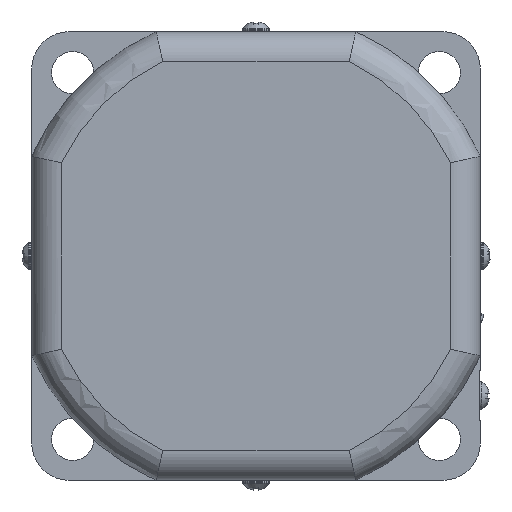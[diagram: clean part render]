
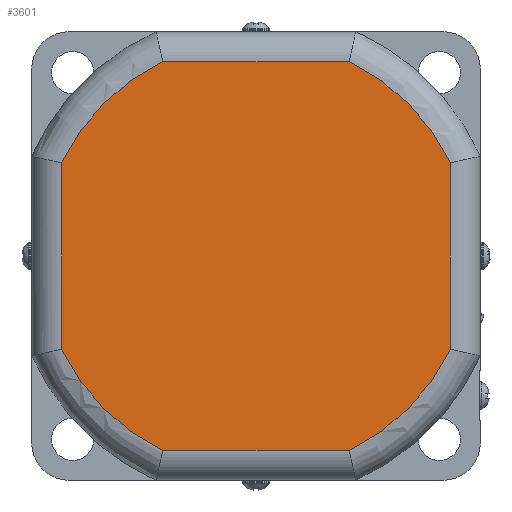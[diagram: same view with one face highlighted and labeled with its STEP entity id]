
A CAD part, left-side view. The second image highlights one B-rep face of the part: STEP entity #3601.
In plain terms, the highlighted planar face has unit normal (-1, 0, 0) as drawn and (0, 0, -1) by its records, which use the part's own axes.
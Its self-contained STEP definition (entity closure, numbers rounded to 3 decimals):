
#387=LINE('',#6355,#667);
#390=LINE('',#6375,#670);
#391=LINE('',#6428,#671);
#392=LINE('',#6445,#672);
#667=VECTOR('',#4804,37.393);
#670=VECTOR('',#4809,37.393);
#671=VECTOR('',#4824,37.393);
#672=VECTOR('',#4827,37.393);
#955=FACE_OUTER_BOUND('',#1192,.T.);
#1192=EDGE_LOOP('',(#2971,#2972,#2973,#2974,#2975,#2976,#2977,#2978));
#1362=CIRCLE('',#4013,43.25);
#1363=CIRCLE('',#4017,43.25);
#1366=CIRCLE('',#4021,43.25);
#1367=CIRCLE('',#4025,43.25);
#1639=VERTEX_POINT('',#6305);
#1641=VERTEX_POINT('',#6322);
#1643=VERTEX_POINT('',#6340);
#1645=VERTEX_POINT('',#6359);
#1646=VERTEX_POINT('',#6377);
#1647=VERTEX_POINT('',#6395);
#1648=VERTEX_POINT('',#6413);
#1649=VERTEX_POINT('',#6430);
#2094=EDGE_CURVE('',#1641,#1639,#1362,.T.);
#2096=EDGE_CURVE('',#1643,#1641,#387,.T.);
#2100=EDGE_CURVE('',#1639,#1645,#390,.T.);
#2102=EDGE_CURVE('',#1646,#1643,#1363,.T.);
#2106=EDGE_CURVE('',#1645,#1647,#1366,.T.);
#2108=EDGE_CURVE('',#1648,#1646,#391,.T.);
#2110=EDGE_CURVE('',#1647,#1649,#392,.T.);
#2111=EDGE_CURVE('',#1649,#1648,#1367,.T.);
#2971=ORIENTED_EDGE('',*,*,#2110,.F.);
#2972=ORIENTED_EDGE('',*,*,#2106,.F.);
#2973=ORIENTED_EDGE('',*,*,#2100,.F.);
#2974=ORIENTED_EDGE('',*,*,#2094,.F.);
#2975=ORIENTED_EDGE('',*,*,#2096,.F.);
#2976=ORIENTED_EDGE('',*,*,#2102,.F.);
#2977=ORIENTED_EDGE('',*,*,#2108,.F.);
#2978=ORIENTED_EDGE('',*,*,#2111,.F.);
#3411=PLANE('',#4027);
#3601=ADVANCED_FACE('',(#955),#3411,.F.);
#4013=AXIS2_PLACEMENT_3D('',#6337,#4800,#4801);
#4017=AXIS2_PLACEMENT_3D('',#6392,#4812,#4813);
#4021=AXIS2_PLACEMENT_3D('',#6411,#4820,#4821);
#4025=AXIS2_PLACEMENT_3D('',#6447,#4830,#4831);
#4027=AXIS2_PLACEMENT_3D('',#6449,#4834,#4835);
#4800=DIRECTION('center_axis',(0.,0.,1.));
#4801=DIRECTION('ref_axis',(0.707,-0.707,0.));
#4804=DIRECTION('',(1.,0.,0.));
#4809=DIRECTION('',(0.,1.,0.));
#4812=DIRECTION('center_axis',(0.,0.,1.));
#4813=DIRECTION('ref_axis',(-0.707,-0.707,0.));
#4820=DIRECTION('center_axis',(0.,0.,1.));
#4821=DIRECTION('ref_axis',(0.707,0.707,0.));
#4824=DIRECTION('',(0.,-1.,0.));
#4827=DIRECTION('',(-1.,0.,0.));
#4830=DIRECTION('center_axis',(0.,0.,1.));
#4831=DIRECTION('ref_axis',(-0.707,0.707,0.));
#4834=DIRECTION('center_axis',(0.,0.,1.));
#4835=DIRECTION('ref_axis',(1.,0.,0.));
#6305=CARTESIAN_POINT('',(39.,-18.697,0.));
#6322=CARTESIAN_POINT('',(18.697,-39.,0.));
#6337=CARTESIAN_POINT('Origin',(0.,0.,0.));
#6340=CARTESIAN_POINT('',(-18.697,-39.,0.));
#6355=CARTESIAN_POINT('',(-18.697,-39.,0.));
#6359=CARTESIAN_POINT('',(39.,18.697,0.));
#6375=CARTESIAN_POINT('',(39.,-18.697,0.));
#6377=CARTESIAN_POINT('',(-39.,-18.697,0.));
#6392=CARTESIAN_POINT('Origin',(0.,0.,0.));
#6395=CARTESIAN_POINT('',(18.697,39.,0.));
#6411=CARTESIAN_POINT('Origin',(0.,0.,0.));
#6413=CARTESIAN_POINT('',(-39.,18.697,0.));
#6428=CARTESIAN_POINT('',(-39.,18.697,0.));
#6430=CARTESIAN_POINT('',(-18.697,39.,0.));
#6445=CARTESIAN_POINT('',(18.697,39.,0.));
#6447=CARTESIAN_POINT('Origin',(0.,0.,0.));
#6449=CARTESIAN_POINT('Origin',(0.,0.,0.));
